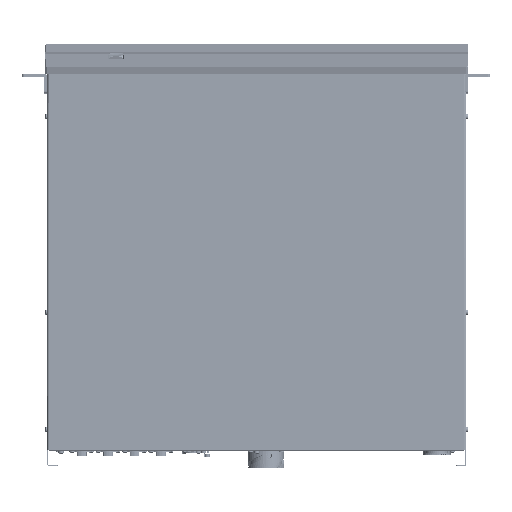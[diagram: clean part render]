
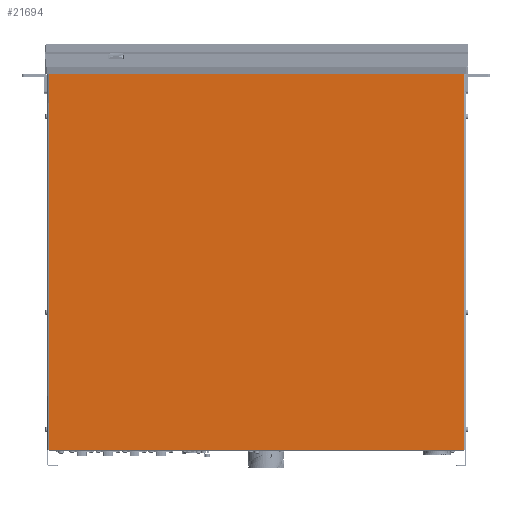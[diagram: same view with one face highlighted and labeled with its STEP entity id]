
A CAD part, top view. The second image highlights one B-rep face of the part: STEP entity #21694.
In plain terms, the highlighted planar face has unit normal (0, 0, 1).
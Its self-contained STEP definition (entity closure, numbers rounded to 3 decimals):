
#21694=ADVANCED_FACE('',(#35862),#266276,.T.);
#35862=FACE_OUTER_BOUND('',#52574,.T.);
#52574=EDGE_LOOP('',(#122416,#122417,#122418,#122419));
#122416=ORIENTED_EDGE('',*,*,#171643,.T.);
#122417=ORIENTED_EDGE('',*,*,#171644,.T.);
#122418=ORIENTED_EDGE('',*,*,#171645,.T.);
#122419=ORIENTED_EDGE('',*,*,#171646,.T.);
#171643=EDGE_CURVE('',#260857,#260858,#202973,.T.);
#171644=EDGE_CURVE('',#260858,#260859,#202974,.T.);
#171645=EDGE_CURVE('',#260859,#260860,#202975,.T.);
#171646=EDGE_CURVE('',#260860,#260857,#202976,.T.);
#202973=B_SPLINE_CURVE_WITH_KNOTS('',1,(#531413,#531414),.UNSPECIFIED.,
 .F.,.F.,(2,2),(0.,424.4),.UNSPECIFIED.);
#202974=B_SPLINE_CURVE_WITH_KNOTS('',1,(#531415,#531416),.UNSPECIFIED.,
 .F.,.F.,(2,2),(0.,384.5),.UNSPECIFIED.);
#202975=B_SPLINE_CURVE_WITH_KNOTS('',1,(#531417,#531418),.UNSPECIFIED.,
 .F.,.F.,(2,2),(0.,424.4),.UNSPECIFIED.);
#202976=B_SPLINE_CURVE_WITH_KNOTS('',1,(#531419,#531420),.UNSPECIFIED.,
 .F.,.F.,(2,2),(0.,384.5),.UNSPECIFIED.);
#260857=VERTEX_POINT('',#523517);
#260858=VERTEX_POINT('',#523518);
#260859=VERTEX_POINT('',#523519);
#260860=VERTEX_POINT('',#523520);
#266276=PLANE('',#293964);
#293964=AXIS2_PLACEMENT_3D('',#511831,#329534,$);
#329534=DIRECTION('',(0.,0.,1.));
#511831=CARTESIAN_POINT('',(-230.7,-254.64,0.));
#523517=CARTESIAN_POINT('',(192.25,-212.2,0.));
#523518=CARTESIAN_POINT('',(192.25,212.2,0.));
#523519=CARTESIAN_POINT('',(-192.25,212.2,0.));
#523520=CARTESIAN_POINT('',(-192.25,-212.2,0.));
#531413=CARTESIAN_POINT('',(192.25,-212.2,0.));
#531414=CARTESIAN_POINT('',(192.25,212.2,0.));
#531415=CARTESIAN_POINT('',(192.25,212.2,0.));
#531416=CARTESIAN_POINT('',(-192.25,212.2,0.));
#531417=CARTESIAN_POINT('',(-192.25,212.2,0.));
#531418=CARTESIAN_POINT('',(-192.25,-212.2,0.));
#531419=CARTESIAN_POINT('',(-192.25,-212.2,0.));
#531420=CARTESIAN_POINT('',(192.25,-212.2,0.));
